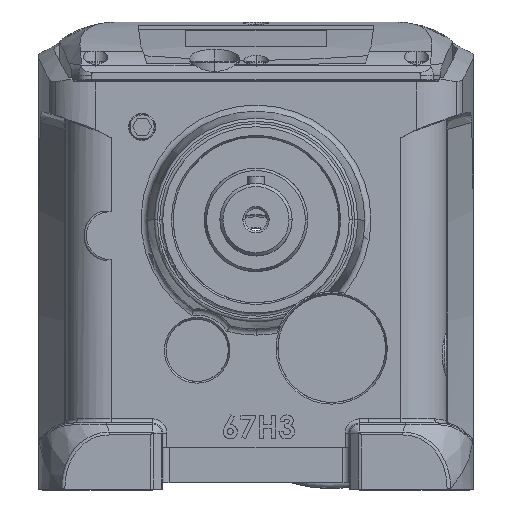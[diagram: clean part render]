
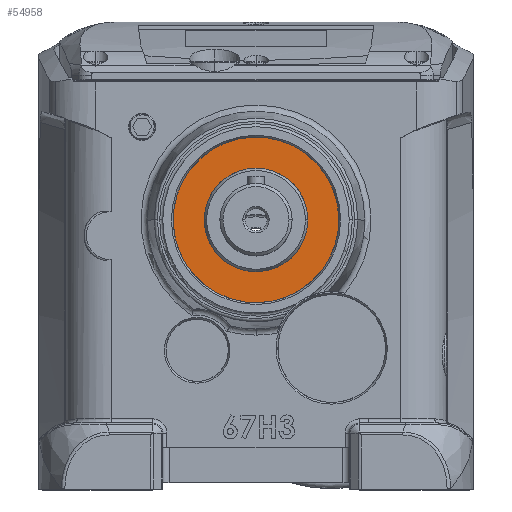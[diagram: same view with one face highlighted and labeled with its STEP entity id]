
A CAD part, top view. The second image highlights one B-rep face of the part: STEP entity #54958.
In plain terms, the highlighted planar face has unit normal (0, 0, 1).
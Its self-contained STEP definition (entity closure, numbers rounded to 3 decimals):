
#17341 = EDGE_CURVE ( 'NONE', #34062, #34059, #35713, .T. ) ;
#17342 = EDGE_CURVE ( 'NONE', #34050, #34053, #35617, .T. ) ;
#17343 = EDGE_CURVE ( 'NONE', #34059, #34062, #35670, .T. ) ;
#17347 = EDGE_CURVE ( 'NONE', #34053, #34050, #35791, .T. ) ;
#24094 = DIRECTION ( 'NONE',  ( 0.736, 0.677, 0. ) ) ;
#24095 = DIRECTION ( 'NONE',  ( 0., 0., 1. ) ) ;
#24096 = CARTESIAN_POINT ( 'NONE',  ( 0., 135., 41.5 ) ) ;
#24104 = DIRECTION ( 'NONE',  ( 0.736, 0.677, 0. ) ) ;
#24105 = DIRECTION ( 'NONE',  ( 0., 0., 1. ) ) ;
#24106 = CARTESIAN_POINT ( 'NONE',  ( 0., 135., 41.5 ) ) ;
#24107 = DIRECTION ( 'NONE',  ( 0.736, 0.677, 0. ) ) ;
#24109 = DIRECTION ( 'NONE',  ( 0., 0., 1. ) ) ;
#24110 = CARTESIAN_POINT ( 'NONE',  ( 0., 135., 41.5 ) ) ;
#24111 = DIRECTION ( 'NONE',  ( 0.736, 0.677, 0. ) ) ;
#24112 = DIRECTION ( 'NONE',  ( 0., 0., 1. ) ) ;
#24113 = CARTESIAN_POINT ( 'NONE',  ( 0., 135., 41.5 ) ) ;
#26509 = FACE_OUTER_BOUND ( 'NONE', #34400, .T. ) ;
#26510 = FACE_BOUND ( 'NONE', #34396, .T. ) ;
#31852 = ORIENTED_EDGE ( 'NONE', *, *, #17343, .F. ) ;
#31854 = ORIENTED_EDGE ( 'NONE', *, *, #17347, .T. ) ;
#31856 = ORIENTED_EDGE ( 'NONE', *, *, #17342, .T. ) ;
#31860 = ORIENTED_EDGE ( 'NONE', *, *, #17341, .F. ) ;
#34050 = VERTEX_POINT ( 'NONE', #51839 ) ;
#34053 = VERTEX_POINT ( 'NONE', #51840 ) ;
#34059 = VERTEX_POINT ( 'NONE', #51841 ) ;
#34062 = VERTEX_POINT ( 'NONE', #51842 ) ;
#34396 = EDGE_LOOP ( 'NONE', ( #31852, #31860 ) ) ;
#34400 = EDGE_LOOP ( 'NONE', ( #31856, #31854 ) ) ;
#35617 = CIRCLE ( 'NONE', #35637, 40. ) ;
#35637 = AXIS2_PLACEMENT_3D ( 'NONE', #24110, #24109, #24107 ) ;
#35670 = CIRCLE ( 'NONE', #35696, 25. ) ;
#35696 = AXIS2_PLACEMENT_3D ( 'NONE', #24106, #24105, #24104 ) ;
#35713 = CIRCLE ( 'NONE', #36240, 25. ) ;
#35791 = CIRCLE ( 'NONE', #35862, 40. ) ;
#35862 = AXIS2_PLACEMENT_3D ( 'NONE', #24096, #24095, #24094 ) ;
#36240 = AXIS2_PLACEMENT_3D ( 'NONE', #24113, #24112, #24111 ) ;
#40297 = PLANE ( 'NONE',  #49763 ) ;
#40299 = CARTESIAN_POINT ( 'NONE',  ( -27.061, 164.457, 41.5 ) ) ;
#40301 = DIRECTION ( 'NONE',  ( 0., 0., -1. ) ) ;
#40303 = DIRECTION ( 'NONE',  ( -0.736, -0.677, 0. ) ) ;
#49763 = AXIS2_PLACEMENT_3D ( 'NONE', #40299, #40301, #40303 ) ;
#51839 = CARTESIAN_POINT ( 'NONE',  ( 29.457, 162.061, 41.5 ) ) ;
#51840 = CARTESIAN_POINT ( 'NONE',  ( -29.457, 107.939, 41.5 ) ) ;
#51841 = CARTESIAN_POINT ( 'NONE',  ( 18.41, 151.913, 41.5 ) ) ;
#51842 = CARTESIAN_POINT ( 'NONE',  ( -18.41, 118.087, 41.5 ) ) ;
#54958 = ADVANCED_FACE ( 'NONE', ( #26510, #26509 ), #40297, .F. ) ;
